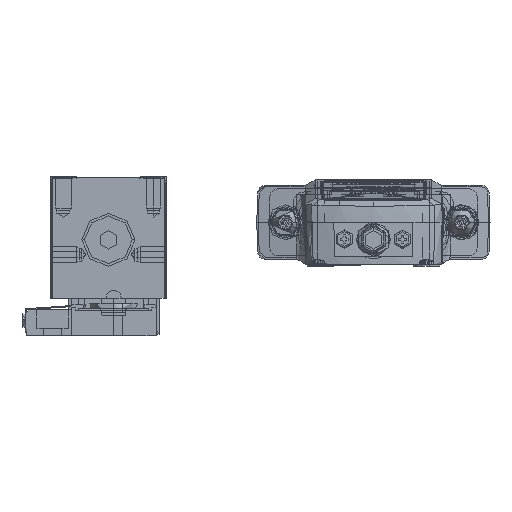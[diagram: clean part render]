
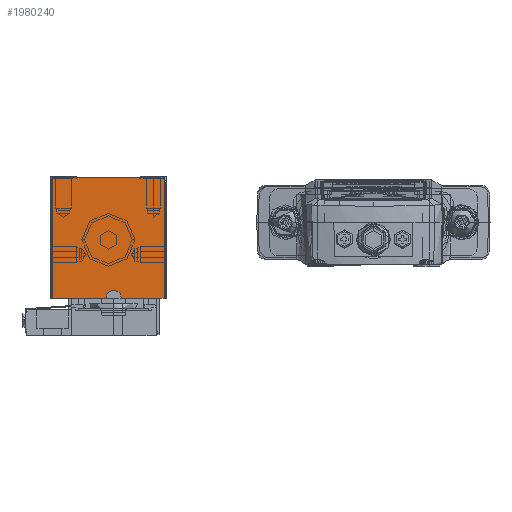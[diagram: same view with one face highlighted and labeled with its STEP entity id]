
A CAD part, left-side view. The second image highlights one B-rep face of the part: STEP entity #1980240.
In plain terms, the highlighted planar face has unit normal (-1, 0, 0).
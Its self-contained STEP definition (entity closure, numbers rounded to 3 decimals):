
#1952810=CARTESIAN_POINT('',(0.,21.5,0.));
#1952820=VERTEX_POINT('',#1952810);
#1953050=CARTESIAN_POINT('',(0.,17.,0.));
#1953060=VERTEX_POINT('',#1953050);
#1953090=CARTESIAN_POINT('',(0.,0.,0.));
#1953100=DIRECTION('',(0.,1.,0.));
#1953110=VECTOR('',#1953100,1.);
#1953120=LINE('',#1953090,#1953110);
#1953130=EDGE_CURVE('',#1953060,#1952820,#1953120,.T.);
#1953370=CARTESIAN_POINT('',(0.,0.5,-8.));
#1953380=VERTEX_POINT('',#1953370);
#1957560=CARTESIAN_POINT('',(0.,21.5,-23.));
#1957570=VERTEX_POINT('',#1957560);
#1957600=CARTESIAN_POINT('',(0.,0.,-23.));
#1957610=DIRECTION('',(0.,-1.,0.));
#1957620=VECTOR('',#1957610,1.);
#1957630=LINE('',#1957600,#1957620);
#1957640=CARTESIAN_POINT('',(0.,11.4,-23.));
#1957650=VERTEX_POINT('',#1957640);
#1957660=EDGE_CURVE('',#1957570,#1957650,#1957630,.T.);
#1957880=CARTESIAN_POINT('',(0.,8.6,-23.));
#1957890=VERTEX_POINT('',#1957880);
#1957920=CARTESIAN_POINT('',(0.,0.,-23.));
#1957930=DIRECTION('',(0.,1.,0.));
#1957940=VECTOR('',#1957930,1.);
#1957950=LINE('',#1957920,#1957940);
#1957960=CARTESIAN_POINT('',(0.,0.5,-23.));
#1957970=VERTEX_POINT('',#1957960);
#1957980=EDGE_CURVE('',#1957970,#1957890,#1957950,.T.);
#1966350=CARTESIAN_POINT('',(0.,0.5,0.));
#1966360=DIRECTION('',(0.,0.,-1.));
#1966370=VECTOR('',#1966360,1.);
#1966380=LINE('',#1966350,#1966370);
#1966390=CARTESIAN_POINT('',(0.,0.5,-7.9));
#1966400=VERTEX_POINT('',#1966390);
#1966410=EDGE_CURVE('',#1966400,#1953380,#1966380,.T.);
#1967280=CARTESIAN_POINT('',(0.,0.2,-1.1));
#1967290=VERTEX_POINT('',#1967280);
#1967320=CARTESIAN_POINT('',(0.,1.1,-1.1));
#1967330=DIRECTION('',(1.,0.,0.));
#1967340=DIRECTION('',(0.,-1.,0.));
#1967350=AXIS2_PLACEMENT_3D('',#1967320,#1967330,#1967340);
#1967360=CIRCLE('',#1967350,0.9);
#1967370=CARTESIAN_POINT('',(0.,1.1,-0.2));
#1967380=VERTEX_POINT('',#1967370);
#1967390=EDGE_CURVE('',#1967380,#1967290,#1967360,.T.);
#1968170=CARTESIAN_POINT('',(0.,21.5,-11.5));
#1968180=DIRECTION('',(0.,0.,-1.));
#1968190=VECTOR('',#1968180,1.);
#1968200=LINE('',#1968170,#1968190);
#1968210=EDGE_CURVE('',#1952820,#1957570,#1968200,.T.);
#1969140=CARTESIAN_POINT('',(0.,10.2,-22.8));
#1969150=DIRECTION('',(1.,0.,0.));
#1969160=DIRECTION('',(0.,-1.,0.));
#1969170=AXIS2_PLACEMENT_3D('',#1969140,#1969150,#1969160);
#1969180=CIRCLE('',#1969170,1.2);
#1969190=CARTESIAN_POINT('',(0.,11.4,-22.8));
#1969200=VERTEX_POINT('',#1969190);
#1969210=CARTESIAN_POINT('',(0.,10.2,-21.6));
#1969220=VERTEX_POINT('',#1969210);
#1969230=EDGE_CURVE('',#1969200,#1969220,#1969180,.T.);
#1970260=CARTESIAN_POINT('',(0.,0.5,-15.5));
#1970270=DIRECTION('',(0.,0.,-1.));
#1970280=VECTOR('',#1970270,1.);
#1970290=LINE('',#1970260,#1970280);
#1970300=EDGE_CURVE('',#1953380,#1957970,#1970290,.T.);
#1970420=CARTESIAN_POINT('',(0.,9.8,-22.8));
#1970430=DIRECTION('',(1.,0.,0.));
#1970440=DIRECTION('',(0.,-1.,0.));
#1970450=AXIS2_PLACEMENT_3D('',#1970420,#1970430,#1970440);
#1970460=CIRCLE('',#1970450,1.2);
#1970470=CARTESIAN_POINT('',(0.,9.8,-21.6));
#1970480=VERTEX_POINT('',#1970470);
#1970490=CARTESIAN_POINT('',(0.,8.6,-22.8));
#1970500=VERTEX_POINT('',#1970490);
#1970510=EDGE_CURVE('',#1970480,#1970500,#1970460,.T.);
#1972760=CARTESIAN_POINT('',(0.,0.,-21.6));
#1972770=DIRECTION('',(0.,1.,0.));
#1972780=VECTOR('',#1972770,1.);
#1972790=LINE('',#1972760,#1972780);
#1972800=EDGE_CURVE('',#1970480,#1969220,#1972790,.T.);
#1973070=CARTESIAN_POINT('',(0.,17.,-0.5));
#1973080=VERTEX_POINT('',#1973070);
#1973130=CARTESIAN_POINT('',(0.,17.,0.));
#1973140=DIRECTION('',(0.,0.,-1.));
#1973150=VECTOR('',#1973140,1.);
#1973160=LINE('',#1973130,#1973150);
#1973170=EDGE_CURVE('',#1953060,#1973080,#1973160,.T.);
#1973840=CARTESIAN_POINT('',(0.,11.4,0.));
#1973850=DIRECTION('',(0.,0.,-1.));
#1973860=VECTOR('',#1973850,1.);
#1973870=LINE('',#1973840,#1973860);
#1973880=EDGE_CURVE('',#1969200,#1957650,#1973870,.T.);
#1976560=CARTESIAN_POINT('',(0.,8.6,0.));
#1976570=DIRECTION('',(0.,0.,1.));
#1976580=VECTOR('',#1976570,1.);
#1976590=LINE('',#1976560,#1976580);
#1976600=EDGE_CURVE('',#1957890,#1970500,#1976590,.T.);
#1979230=CARTESIAN_POINT('',(0.,5.646,-7.9));
#1979240=DIRECTION('',(0.,1.,0.));
#1979250=VECTOR('',#1979240,1.);
#1979260=LINE('',#1979230,#1979250);
#1979270=CARTESIAN_POINT('',(0.,0.2,-7.9));
#1979280=VERTEX_POINT('',#1979270);
#1979290=EDGE_CURVE('',#1979280,#1966400,#1979260,.T.);
#1979750=CARTESIAN_POINT('',(0.,21.9,-6.));
#1979760=DIRECTION('',(-1.,-0.,-0.));
#1979770=DIRECTION('',(0.,0.,-1.));
#1979780=AXIS2_PLACEMENT_3D('',#1979750,#1979760,#1979770);
#1979790=PLANE('',#1979780);
#1979800=CARTESIAN_POINT('',(0.,5.646,
-0.2));
#1979810=DIRECTION('',(0.,-1.,0.));
#1979820=VECTOR('',#1979810,1.);
#1979830=LINE('',#1979800,#1979820);
#1979840=CARTESIAN_POINT('',(0.,16.95,-0.2));
#1979850=VERTEX_POINT('',#1979840);
#1979860=EDGE_CURVE('',#1979850,#1967380,#1979830,.T.);
#1979870=ORIENTED_EDGE('',*,*,#1979860,.F.);
#1979880=ORIENTED_EDGE('',*,*,#1967390,.F.);
#1979890=CARTESIAN_POINT('',(0.,0.2,
-0.2));
#1979900=DIRECTION('',(0.,0.,-1.));
#1979910=VECTOR('',#1979900,1.);
#1979920=LINE('',#1979890,#1979910);
#1979930=EDGE_CURVE('',#1967290,#1979280,#1979920,.T.);
#1979940=ORIENTED_EDGE('',*,*,#1979930,.F.);
#1979950=ORIENTED_EDGE('',*,*,#1979290,.F.);
#1979960=ORIENTED_EDGE('',*,*,#1966410,.F.);
#1979970=ORIENTED_EDGE('',*,*,#1970300,.F.);
#1979980=ORIENTED_EDGE('',*,*,#1957980,.F.);
#1979990=ORIENTED_EDGE('',*,*,#1976600,.F.);
#1980000=ORIENTED_EDGE('',*,*,#1970510,.T.);
#1980010=ORIENTED_EDGE('',*,*,#1972800,.F.);
#1980020=ORIENTED_EDGE('',*,*,#1969230,.T.);
#1980030=ORIENTED_EDGE('',*,*,#1973880,.F.);
#1980040=ORIENTED_EDGE('',*,*,#1957660,.T.);
#1980050=ORIENTED_EDGE('',*,*,#1968210,.T.);
#1980060=ORIENTED_EDGE('',*,*,#1953130,.T.);
#1980070=ORIENTED_EDGE('',*,*,#1973170,.F.);
#1980080=CARTESIAN_POINT('',(0.,0.,-0.5));
#1980090=DIRECTION('',(0.,1.,0.));
#1980100=VECTOR('',#1980090,1.);
#1980110=LINE('',#1980080,#1980100);
#1980120=CARTESIAN_POINT('',(0.,16.95,-0.5));
#1980130=VERTEX_POINT('',#1980120);
#1980140=EDGE_CURVE('',#1980130,#1973080,#1980110,.T.);
#1980150=ORIENTED_EDGE('',*,*,#1980140,.T.);
#1980160=CARTESIAN_POINT('',(0.,16.95,-0.8));
#1980170=DIRECTION('',(0.,0.,1.));
#1980180=VECTOR('',#1980170,1.);
#1980190=LINE('',#1980160,#1980180);
#1980200=EDGE_CURVE('',#1980130,#1979850,#1980190,.T.);
#1980210=ORIENTED_EDGE('',*,*,#1980200,.F.);
#1980220=EDGE_LOOP('',(#1980210,#1980150,#1980070,#1980060,#1980050,
#1980040,#1980030,#1980020,#1980010,#1980000,#1979990,#1979980,#1979970,
#1979960,#1979950,#1979940,#1979880,#1979870));
#1980230=FACE_OUTER_BOUND('',#1980220,.T.);
#1980240=ADVANCED_FACE('',(#1980230),#1979790,.T.);
